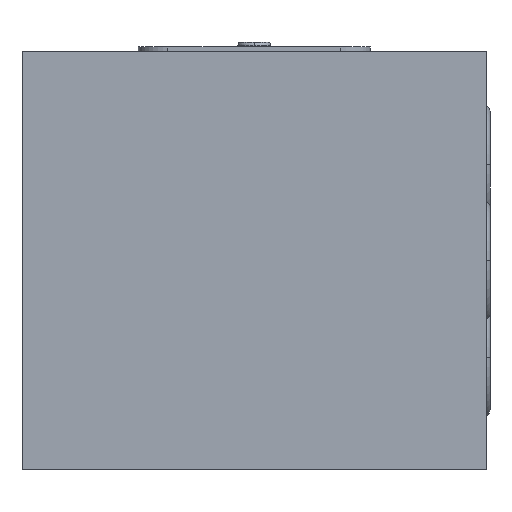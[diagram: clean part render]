
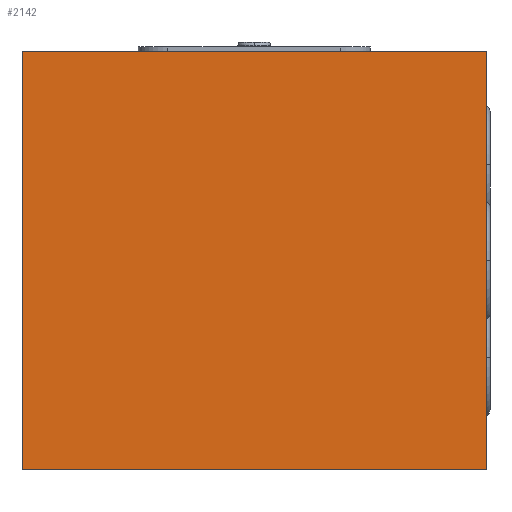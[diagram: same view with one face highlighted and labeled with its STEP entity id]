
A CAD part, left-side view. The second image highlights one B-rep face of the part: STEP entity #2142.
In plain terms, the highlighted planar face has unit normal (-1, 0, 0).
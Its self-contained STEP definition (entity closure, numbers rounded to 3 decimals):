
#52=DIRECTION('',(0.,0.,-1.));
#53=VECTOR('',#52,45.);
#54=CARTESIAN_POINT('',(0.,0.,0.));
#55=LINE('',#54,#53);
#59=DIRECTION('',(0.,1.,0.));
#60=VECTOR('',#59,50.);
#61=CARTESIAN_POINT('',(0.,0.,-45.));
#62=LINE('',#61,#60);
#66=DIRECTION('',(0.,0.,1.));
#67=VECTOR('',#66,45.);
#68=CARTESIAN_POINT('',(0.,50.,-45.));
#69=LINE('',#68,#67);
#73=DIRECTION('',(0.,-1.,0.));
#74=VECTOR('',#73,50.);
#75=CARTESIAN_POINT('',(0.,50.,0.));
#76=LINE('',#75,#74);
#1912=CARTESIAN_POINT('',(0.,0.,0.));
#1913=CARTESIAN_POINT('',(0.,0.,-45.));
#1914=VERTEX_POINT('',#1912);
#1915=VERTEX_POINT('',#1913);
#1916=CARTESIAN_POINT('',(0.,50.,-45.));
#1917=VERTEX_POINT('',#1916);
#1918=CARTESIAN_POINT('',(0.,50.,0.));
#1919=VERTEX_POINT('',#1918);
#2127=CARTESIAN_POINT('',(0.,0.,0.));
#2128=DIRECTION('',(1.,0.,0.));
#2129=DIRECTION('',(0.,0.,-1.));
#2130=AXIS2_PLACEMENT_3D('',#2127,#2128,#2129);
#2131=PLANE('',#2130);
#2133=ORIENTED_EDGE('',*,*,#2132,.T.);
#2135=ORIENTED_EDGE('',*,*,#2134,.T.);
#2137=ORIENTED_EDGE('',*,*,#2136,.T.);
#2139=ORIENTED_EDGE('',*,*,#2138,.T.);
#2140=EDGE_LOOP('',(#2133,#2135,#2137,#2139));
#2141=FACE_OUTER_BOUND('',#2140,.F.);
#2132=EDGE_CURVE('',#1914,#1915,#55,.T.);
#2134=EDGE_CURVE('',#1915,#1917,#62,.T.);
#2136=EDGE_CURVE('',#1917,#1919,#69,.T.);
#2138=EDGE_CURVE('',#1919,#1914,#76,.T.);
#2142=ADVANCED_FACE('',(#2141),#2131,.F.);
